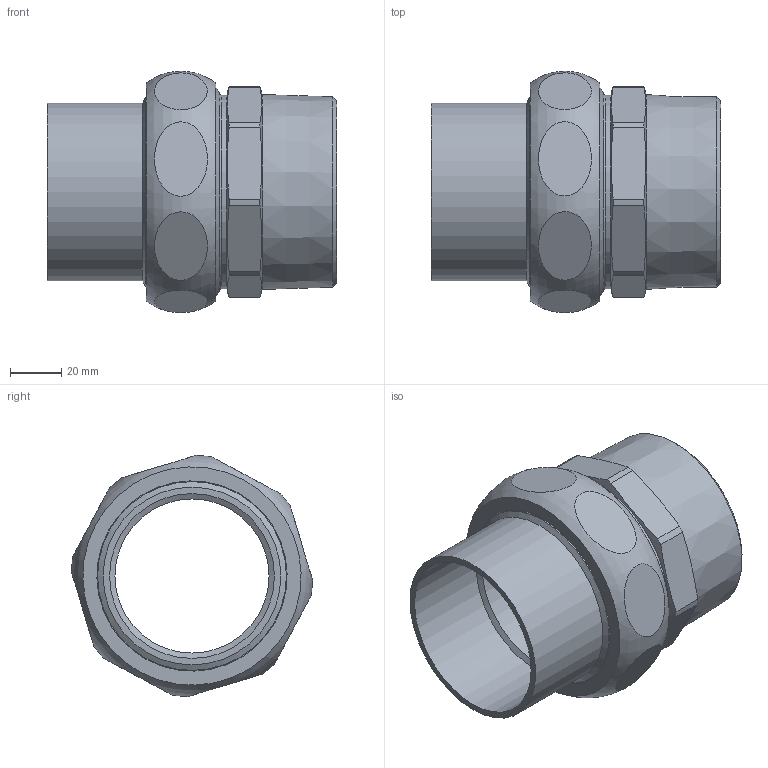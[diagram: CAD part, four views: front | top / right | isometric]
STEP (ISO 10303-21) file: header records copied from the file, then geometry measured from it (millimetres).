
FILE_DESCRIPTION(/* description */ (''),/* implementation_level */ '2;1');
FILE_NAME(/* name */ '\\lg50011\SANHA_LEGNICA\Engineering\Public\RYSUNKI\SANHA POLSKA\4343\Inventor\stp\1434364212.stp',/* time_stamp */ '2021-10-06T07:39:19+02:00',/* author */ ('gomulka'),/* organization */ (''),/* preprocessor_version */ 'ST-DEVELOPER v18.1',/* originating_system */ 'Autodesk Inventor 2021',/* authorisation */ '');
FILE_SCHEMA (('AUTOMOTIVE_DESIGN { 1 0 10303 214 3 1 1 }'));
Length unit declared in the file: millimetre
Products named in the file (4): 1434364212; 14381_64-234(1); 14386g_212-234(1); R14374_234(0)
Assembly tree (3 placements, depth 2):
  1434364212
    14381_64-234(1)
    14386g_212-234(1)
    R14374_234(0)
Bounding box: 112.63 x 93.94 x 93.94 mm (x, y, z)
Volume: 169845.4 mm3; surface area: 74376.6 mm2
Topology: 3 solids, 3 shells, 58 faces, 155 edges, 112 vertices
Faces by surface type: plane 24, cylinder 20, cone 11, torus 3
Full cylindrical faces by diameter (mm): 60 x1, 61 x1, 64.17 x1, 66 x1, 69.2 x1, 71 x1, 73.5 x1, 74.1 x1, 75.5 x1, 78 x1, 78.576 x1, 81.534 x1
Entity records: 2673 total; most frequent: CARTESIAN_POINT 1017, DIRECTION 347, ORIENTED_EDGE 310, EDGE_CURVE 155, AXIS2_PLACEMENT_3D 154, VERTEX_POINT 112, CIRCLE 89, EDGE_LOOP 73
